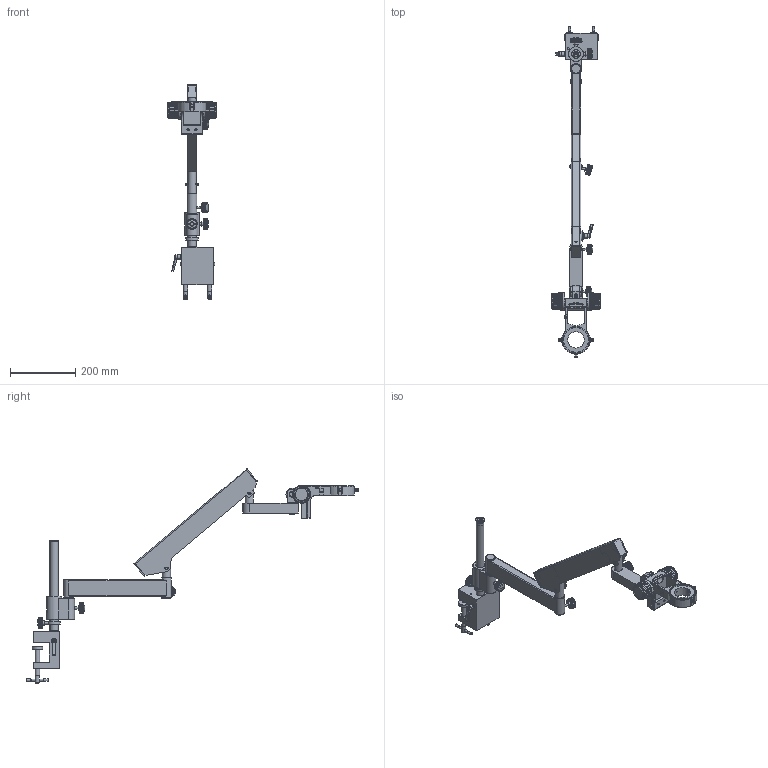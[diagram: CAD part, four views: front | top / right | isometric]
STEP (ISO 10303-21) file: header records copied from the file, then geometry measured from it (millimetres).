
FILE_DESCRIPTION(('STEP AP214'),'1');
FILE_NAME('50.stp','2025-05-29T02:21:18',(' '),(' '),'Spatial InterOp 3D',' ',' ');
FILE_SCHEMA(('AUTOMOTIVE_DESIGN { 1 0 10303 214 1 1 1 1 }'));
Length unit declared in the file: metre
Products named in the file (5): FA100-PMΦ50; Component1; Component2; Component3; Component4
Assembly tree (4 placements, depth 2):
  FA100-PMΦ50
    Component1
    Component2
    Component3
    Component4
Bounding box: 148.5 x 1018.61 x 657.98 mm (x, y, z)
Volume: 2711898.6 mm3; surface area: 561780.2 mm2
Topology: 7 solids, 8 shells, 2882 faces, 7632 edges, 4919 vertices
Faces by surface type: plane 1570, cylinder 956, torus 196, sphere 79, cone 71, bspline 10
Full cylindrical faces by diameter (mm): 2 x4, 2.5 x2, 3 x2, 4 x16, 4.5 x2, 5 x10, 6 x25, 6.3 x1, 6.5 x2, 6.8 x2, 7 x3, 7.2 x1, 7.3 x4, 7.8 x5, 8 x9, 8.5 x3, 8.8 x2, 8.9 x1, 9 x2, 10 x3, 12 x1, 12.5 x2, 12.9 x6, 14 x4, 14.5 x1, 15 x2, 16 x11, 17.5 x1, 18 x2, 18.6 x1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
Entity records: 133886 total; most frequent: CARTESIAN_POINT 19523, DIRECTION 15727, ORIENTED_EDGE 14222, EDGE_CURVE 7111, STYLED_ITEM 6847, PRESENTATION_STYLE_ASSIGNMENT 6847, COLOUR_RGB 6847, AXIS2_PLACEMENT_3D 6015
